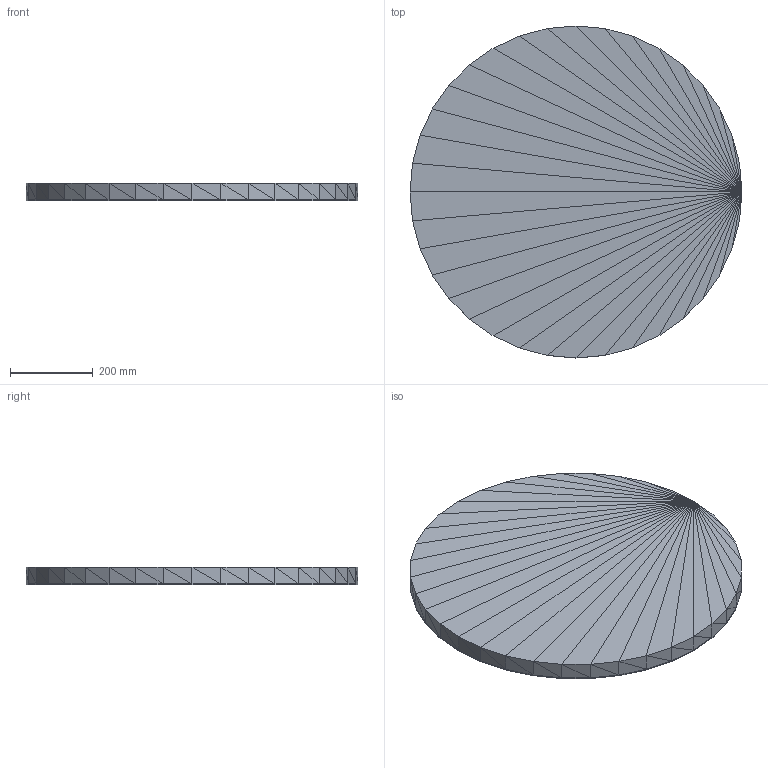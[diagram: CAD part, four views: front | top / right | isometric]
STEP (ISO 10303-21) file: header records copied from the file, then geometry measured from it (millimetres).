
FILE_DESCRIPTION(('ISINAC STEP AP214'),'2;1');
FILE_NAME('ISINAC_CIR.800_40mm_IMANTADA','2026-05-03T10:49:20',('ISINAC'),('www.isinac.com'),'ISINAC BIM Generator 1.0','','');
FILE_SCHEMA(('AUTOMOTIVE_DESIGN'));
Length unit declared in the file: millimetre
Products named in the file (1): ISINAC_CIR.800_40mm_IMANTADA
Bounding box: 800 x 800 x 42 mm (x, y, z)
Surface area: 2105850.6 mm2 (no closed solid volume)
Topology: 0 solids, 280 shells, 280 faces, 840 edges, 840 vertices
Faces by surface type: plane 280
Entity records: 3093 total; most frequent: CARTESIAN_POINT 1120, DIRECTION 560, POLY_LOOP 280, FACE_OUTER_BOUND 280, AXIS2_PLACEMENT_3D 280, PLANE 280, FACE_SURFACE 280, CLOSED_SHELL 1
